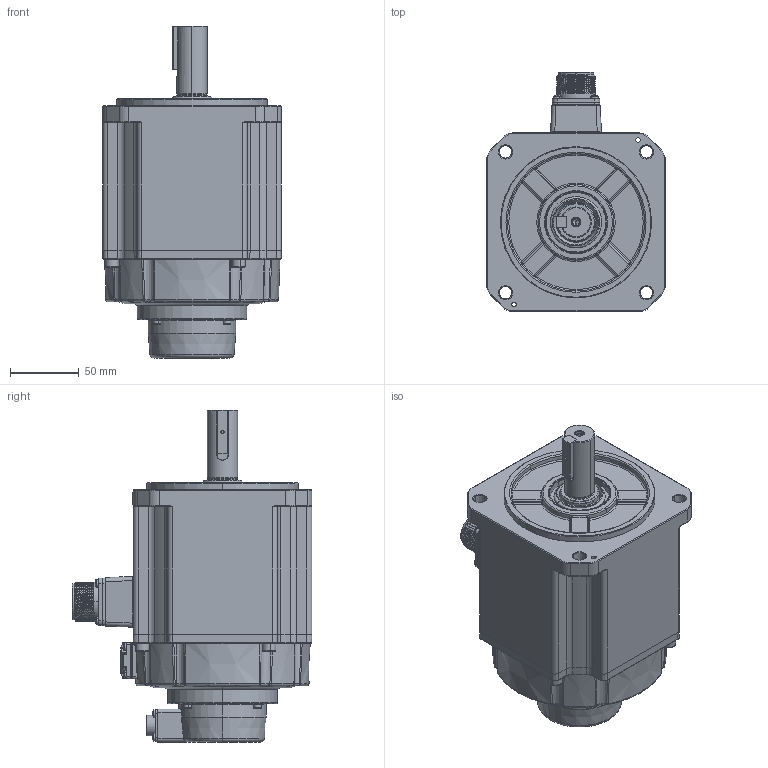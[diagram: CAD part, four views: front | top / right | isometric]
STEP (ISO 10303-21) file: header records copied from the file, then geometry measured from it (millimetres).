
FILE_DESCRIPTION (( 'STEP AP214' ), '1' );
FILE_NAME ('RSA1-M-130-1.3kw-B.STEP', '2024-08-12T02:11:54', ( '' ), ( '' ), 'SwSTEP 2.0', 'SolidWorks 2020', '' );
FILE_SCHEMA (( 'AUTOMOTIVE_DESIGN' ));
Length unit declared in the file: millimetre
Products named in the file (15): 130雄薯瑤脣價釱; 4140000005_电机内部编码器线_7x26AWG(0.1m-CMV1-10芯螺纹插座_GACJ3045); 130梓袧綴裔; 130-M-1.3kw儂褲; 130-惕掅綴傷裔; ﾊｮﾗﾖｲﾛﾅﾌﾍｷﾗﾔｼｷﾂﾝｶ､_M3x8; 内六角圆柱头和平垫圈组合螺钉_M3x16; 惕掅雄薯瑤脣; 坋趼羞攫芛蹟隊_M3x30; 内六角圆柱头螺钉_M6x20; す瑩_B8x7x32; 130-蚐猾_TC30x45x8(NBR); 130-笢嫦講-粣噤22; RSA1-M-130-1.3kw-B; 130秶雄ん盄揤裔
Assembly tree (30 placements, depth 2):
  RSA1-M-130-1.3kw-B
    130-M-1.3kw儂褲
    130雄薯瑤脣價釱
    130-笢嫦講-粣噤22
    惕掅雄薯瑤脣
    130-蚐猾_TC30x45x8(NBR)
    130-惕掅綴傷裔
    130梓袧綴裔
    4140000005_电机内部编码器线_7x26AWG(0.1m-CMV1-10芯螺纹插座_GACJ3045)
    内六角圆柱头螺钉_M6x20  x4
    内六角圆柱头和平垫圈组合螺钉_M3x16  x4
    坋趼羞攫芛蹟隊_M3x30  x8
    ﾊｮﾗﾖｲﾛﾅﾌﾍｷﾗﾔｼｷﾂﾝｶ､_M3x8  x4
    す瑩_B8x7x32
    130秶雄ん盄揤裔
Bounding box: 130 x 174.4 x 241.6 mm (x, y, z)
Volume: 1955182 mm3; surface area: 214445 mm2
Topology: 34 solids, 36 shells, 3151 faces, 7787 edges, 4862 vertices
Faces by surface type: plane 1462, cylinder 754, cone 320, torus 299, bspline 240, sphere 76
Entity records: 109009 total; most frequent: CARTESIAN_POINT 28597, ORIENTED_EDGE 13370, DIRECTION 13341, EDGE_CURVE 6685, AXIS2_PLACEMENT_3D 4801, VERTEX_POINT 4188, VECTOR 3739, LINE 3739
